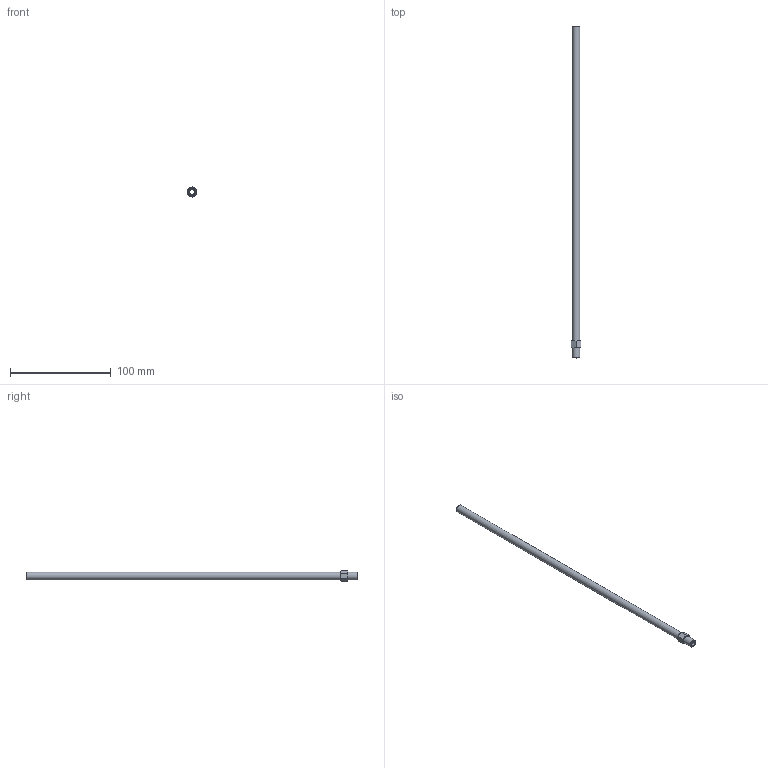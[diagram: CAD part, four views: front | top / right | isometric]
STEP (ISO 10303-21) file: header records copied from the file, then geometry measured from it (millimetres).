
FILE_DESCRIPTION(/* description */ (''),/* implementation_level */ '2;1');
FILE_NAME(/* name */ 'C:/Users/drich/Desktop/APN16-13 v1.step',/* time_stamp */ '2019-12-27T17:50:10-06:00',/* author */ (''),/* organization */ (''),/* preprocessor_version */ 'ST-DEVELOPER v18',/* originating_system */ 'Autodesk Translation Framework v8.12.0.6',/* authorisation */ '');
FILE_SCHEMA (('AUTOMOTIVE_DESIGN { 1 0 10303 214 3 1 1 }'));
Length unit declared in the file: inch
Products named in the file (1): APN16-13
Bounding box: 9.5 x 330.2 x 10.97 mm (x, y, z)
Volume: 9478 mm3; surface area: 12954.9 mm2
Topology: 1 solids, 1 shells, 17 faces, 39 edges, 26 vertices
Faces by surface type: plane 10, cone 4, cylinder 3
Full cylindrical faces by diameter (mm): 4.724 x1, 7.616 x2
Entity records: 521 total; most frequent: CARTESIAN_POINT 107, ORIENTED_EDGE 78, DIRECTION 77, EDGE_CURVE 39, AXIS2_PLACEMENT_3D 32, VERTEX_POINT 26, EDGE_LOOP 21, FACE_OUTER_BOUND 17
